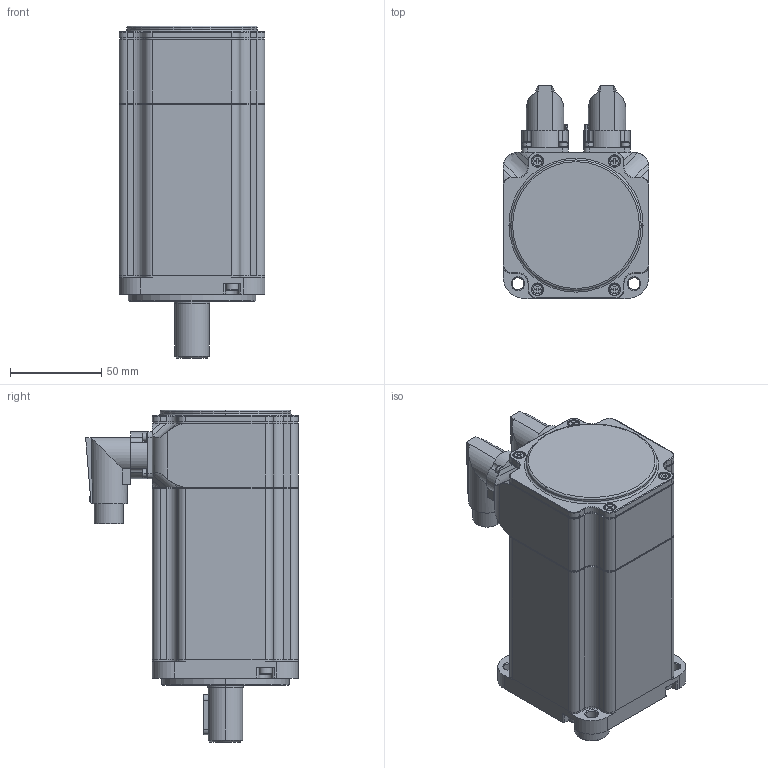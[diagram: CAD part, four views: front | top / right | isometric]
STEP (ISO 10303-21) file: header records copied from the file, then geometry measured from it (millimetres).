
FILE_DESCRIPTION (( 'STEP AP203' ), '1' );
FILE_NAME ('SMH80-753026ENC-30.STEP', '2014-06-04T06:28:59', ( '微软用户' ), ( '微软中国' ), 'SwSTEP 2.0', 'SolidWorks 2011', '' );
FILE_SCHEMA (( 'CONFIG_CONTROL_DESIGN' ));
Length unit declared in the file: millimetre
Products named in the file (32): SMH80-753026ENC-30; hexagon socket head cap screws gb_GB_FASTENER_SCREWS_HSHCS M2.5X6-N; spring lock washers--normal type gb_GB_FASTENER_WASHER_SW 2.5; M17萇埭; M17陓瘍; circlips for holes--type a gb_GB_CONNECTING_PIECE_RING_RRH 42; 轴承垫圈; 瑩; cross recessed countersunk head screws gb2_GB_CROSS_SCREWS_TYPE10 M3X8-6.35-H1-N; hexagon socket head cap screws gb_GB_FASTENER_SCREWS_HSHCS M4X35-N; spring lock washers--normal type gb_GB_FASTENER_WASHER_SW 3; hexagon socket head cap screws gb_GB_FASTENER_SCREWS_HSHCS M3X5-N; 晤鎢ん; 諉華え; 鎢攫欶綴裔; 躇猾菜; 鎢攫欶; 蛌赽軞傖_Default; hexagon socket head cap screws gb_GB_FASTENER_SCREWS_HSHCS M4X10-N; 粣創揤啣; 綴傷裔И璃; 綴傷裔; deep groove ball bearings gb_Rolling bearings 6004 GB 276-94; deep groove ball bearings gb_Rolling bearings 6002 GB 276-94; circlips for shaft--type a large gb_GB_CONNECTING_PIECE_RING_RRA 15; 蛌赽郪璃_Default; 蛌粣; 隅赽軞傖_Default; hexagon socket head cap screws gb_GB_FASTENER_SCREWS_HSHCS M4X16-N; ヶ傷裔И璃; 儂褲; ヶ傷裔
Assembly tree (59 placements, depth 4):
  SMH80-753026ENC-30
    spring lock washers--normal type gb_GB_FASTENER_WASHER_SW 2.5  x8
    hexagon socket head cap screws gb_GB_FASTENER_SCREWS_HSHCS M2.5X6-N  x8
    隅赽軞傖_Default
      ヶ傷裔
      hexagon socket head cap screws gb_GB_FASTENER_SCREWS_HSHCS M4X16-N  x4
      ヶ傷裔И璃
      儂褲
    瑩
    circlips for holes--type a gb_GB_CONNECTING_PIECE_RING_RRH 42
    cross recessed countersunk head screws gb2_GB_CROSS_SCREWS_TYPE10 M3X8-6.35-H1-N  x4
    hexagon socket head cap screws gb_GB_FASTENER_SCREWS_HSHCS M4X35-N  x4
    M17萇埭
    M17陓瘍
    轴承垫圈
    鎢攫欶綴裔
    鎢攫欶
    躇猾菜  x2
    spring lock washers--normal type gb_GB_FASTENER_WASHER_SW 3  x2
    hexagon socket head cap screws gb_GB_FASTENER_SCREWS_HSHCS M3X5-N  x2
    晤鎢ん
    諉華え
    蛌赽軞傖_Default
      hexagon socket head cap screws gb_GB_FASTENER_SCREWS_HSHCS M4X10-N  x3
      綴傷裔И璃
      蛌赽郪璃_Default
        蛌粣
      粣創揤啣
      綴傷裔
      deep groove ball bearings gb_Rolling bearings 6002 GB 276-94
      deep groove ball bearings gb_Rolling bearings 6004 GB 276-94
      circlips for shaft--type a large gb_GB_CONNECTING_PIECE_RING_RRA 15
Bounding box: 80 x 116.6 x 182 mm (x, y, z)
Volume: 375515.1 mm3; surface area: 205559.1 mm2
Topology: 56 solids, 56 shells, 2474 faces, 6743 edges, 4329 vertices
Faces by surface type: cylinder 988, plane 948, torus 209, cone 177, sphere 86, bspline 66
Entity records: 69474 total; most frequent: CARTESIAN_POINT 17068, DIRECTION 10406, ORIENTED_EDGE 10090, EDGE_CURVE 5045, AXIS2_PLACEMENT_3D 4135, VERTEX_POINT 3299, CIRCLE 2261, EDGE_LOOP 2158
